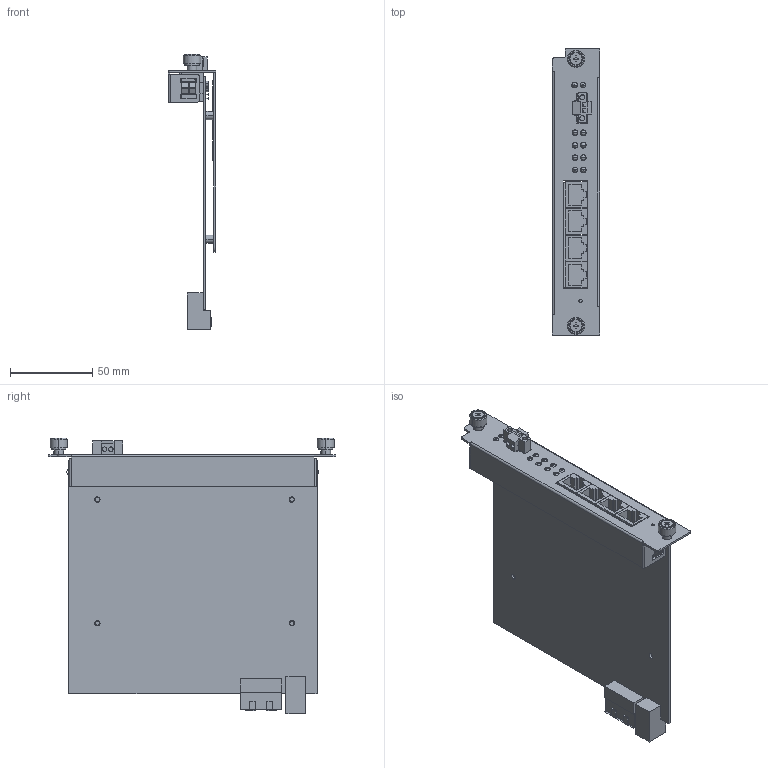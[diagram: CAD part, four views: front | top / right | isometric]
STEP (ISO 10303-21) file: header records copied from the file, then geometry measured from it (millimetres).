
FILE_DESCRIPTION((''),'2;1');
FILE_NAME('3D_IM-G7000A-4POE','2014-09-10T',('Vincent_Huang'),(''),'PRO/ENGINEER BY PARAMETRIC TECHNOLOGY CORPORATION, 2004320','PRO/ENGINEER BY PARAMETRIC TECHNOLOGY CORPORATION, 2004320','');
FILE_SCHEMA(('CONFIG_CONTROL_DESIGN'));
Length unit declared in the file: millimetre
Products named in the file (1): 3D_IM-G7000A-4POE
Bounding box: 28.8 x 174.7 x 167.1 mm (x, y, z)
Surface area: 104122.6 mm2 (no closed solid volume)
Topology: 0 solids, 6 shells, 975 faces, 2707 edges, 1855 vertices
Faces by surface type: plane 612, cylinder 339, bspline 20, cone 4
Entity records: 32377 total; most frequent: CARTESIAN_POINT 6661, DIRECTION 5284, ORIENTED_EDGE 5178, EDGE_CURVE 2707, VECTOR 1864, LINE 1864, VERTEX_POINT 1855, AXIS2_PLACEMENT_3D 1710
